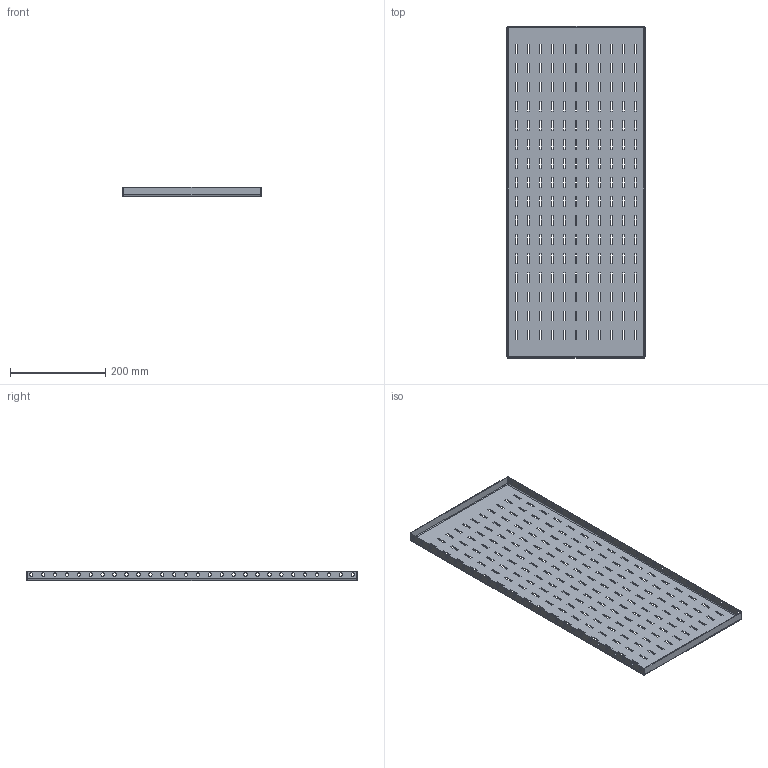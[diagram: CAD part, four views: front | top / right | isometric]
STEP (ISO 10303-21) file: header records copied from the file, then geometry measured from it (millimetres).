
FILE_DESCRIPTION(('STEP AP203'), '1');
FILE_NAME('Êîìïëåêò îãðàæäåíèÿ ñáîðíîé øèíû çàäíèé 1800õ400 ìì OptiBox M 419330 ÊÝÀÇ', '', ('UNSPECIFIED'), ('UNSPECIFIED'), 'C3D Converter', 'C3D Toolkit', '');
FILE_SCHEMA(('CONFIG_CONTROL_DESIGN'));
Length unit declared in the file: millimetre
Bounding box: 292 x 697 x 19 mm (x, y, z)
Volume: 328842.6 mm3; surface area: 456234.1 mm2
Topology: 1 solids, 1 shells, 798 faces, 2356 edges, 1560 vertices
Faces by surface type: plane 726, cylinder 64, bspline 8
Full cylindrical faces by diameter (mm): 7.3 x56
Entity records: 28256 total; most frequent: CARTESIAN_POINT 6175, ORIENTED_EDGE 4600, DIRECTION 3974, EDGE_CURVE 2300, LINE 2168, VECTOR 2168, VERTEX_POINT 1560, EDGE_LOOP 1318
